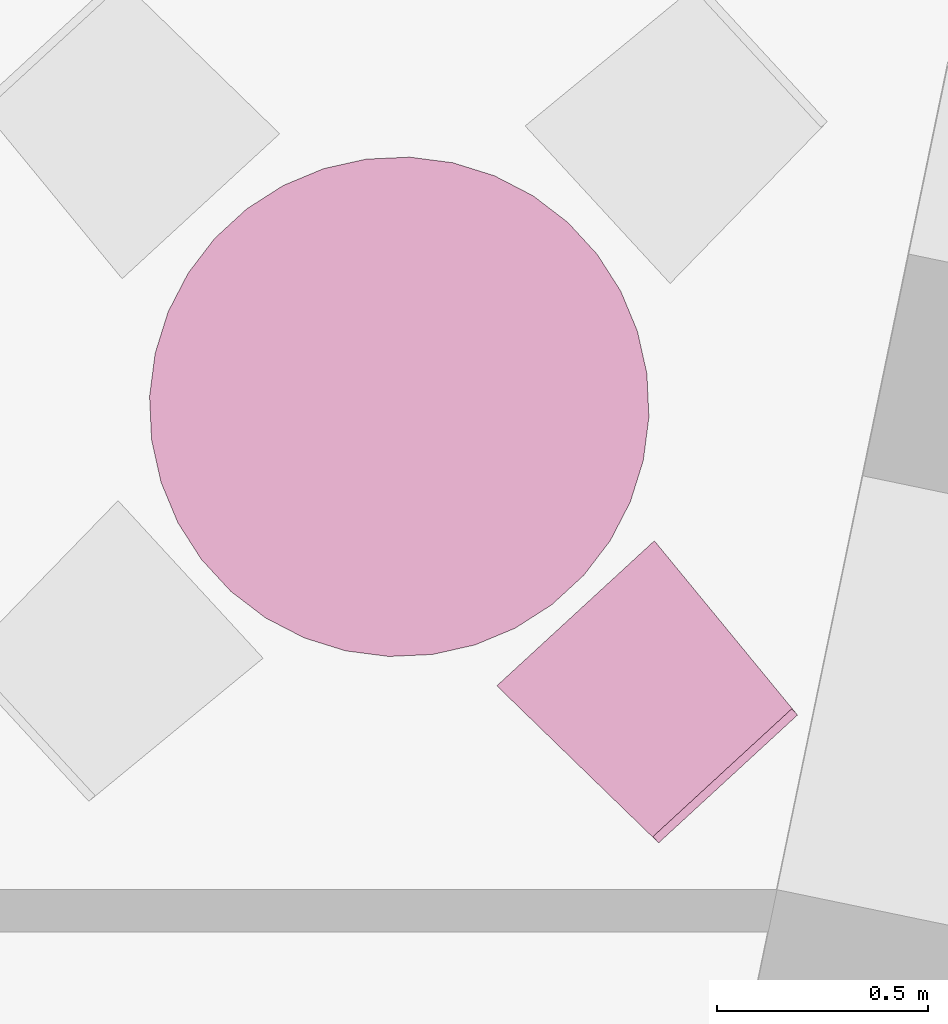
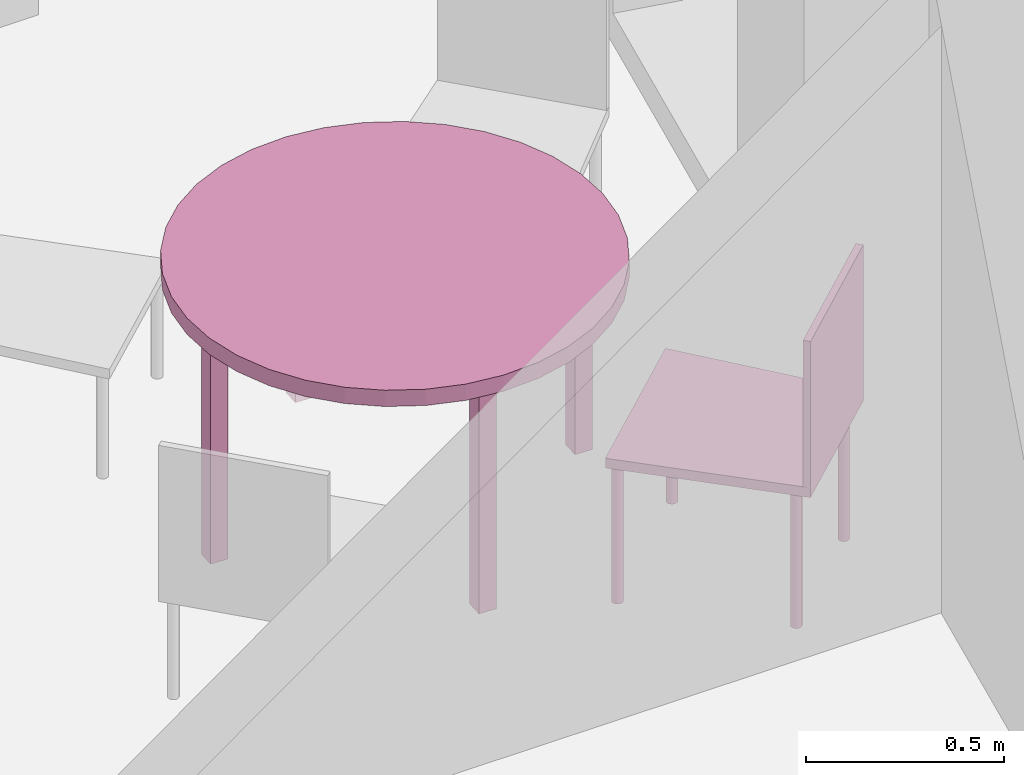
"""IFC4 building model written with IfcOpenShell, lengths in metres."""

from ifc_helpers import new_model, entity, si_unit, converted_unit, derived_unit, frame, origin, place, context, subcontext, project, spatial, faceted_brep, element, save


model = new_model("IFC4")

# Units and contexts
model_context = context("Model", 3, precision=1e-05, world=origin())
body_context = subcontext(model_context, "Body", "Model", "MODEL_VIEW")
ifc_project = project(units=[si_unit("LENGTHUNIT", "METRE"), si_unit("AREAUNIT", "SQUARE_METRE"), si_unit("VOLUMEUNIT", "CUBIC_METRE"), si_unit("MASSUNIT", "GRAM", prefix="KILO"), converted_unit("PLANEANGLEUNIT", "DEGREE", entity("IfcPlaneAngleMeasure", 0.0174532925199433), si_unit("PLANEANGLEUNIT", "RADIAN"), dimensions=[0, 0, 0, 0, 0, 0, 0]), derived_unit("THERMALTRANSMITTANCEUNIT", [(si_unit("POWERUNIT", "WATT"), 1), (si_unit("THERMODYNAMICTEMPERATUREUNIT", "KELVIN"), -1), (si_unit("LENGTHUNIT", "METRE"), -2)]), derived_unit("VOLUMETRICFLOWRATEUNIT", [(si_unit("LENGTHUNIT", "METRE"), 3), (converted_unit("TIMEUNIT", "hour", entity("IfcTimeMeasure", 3600.0), si_unit("TIMEUNIT", "SECOND"), dimensions=[0, 0, 1, 0, 0, 0, 0]), -1), (si_unit("LENGTHUNIT", "METRE"), -1)])], contexts=[model_context])

# Building, storeys
building_placement = place(None, origin())
building = spatial("IfcBuilding", under=ifc_project, at=building_placement, Name="HABITATGE PLURIFAMILIAR", CompositionType="ELEMENT")
storey_1_placement = place(building_placement, frame((0.0, 0.0, 9.26)))
storey_1 = spatial("IfcBuildingStorey", under=building, at=storey_1_placement, Name="PLANTA SEGONA", CompositionType="ELEMENT", Elevation=9.26)
storey_2_placement = place(storey_1_placement, frame((0.0, 0.0, 6.25)))
storey_2 = spatial("IfcBuildingStorey", under=storey_1, at=storey_2_placement, Name="NOU", CompositionType="PARTIAL")

# Furniture
furniture_1_placement = place(storey_2_placement, frame((424.548752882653, 24.8565950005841, -6.3499999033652)))
element("IfcFurniture", 1, at=furniture_1_placement, inside=storey_2, Name="Taula D120_P2", context=body_context, shape_type="Brep", body=[
    faceted_brep([(0.566234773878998, 0.0, 0.7), (0.669181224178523, 0.00472505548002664, 0.7), (0.769743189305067, 0.0272547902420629, 0.7), (0.864865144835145, 0.066904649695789, 0.7), (0.95165685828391, 0.122469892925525, 0.7), (1.02748120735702, 0.192262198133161, 0.7), (1.09003430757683, 0.274160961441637, 0.7), (1.13741551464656, 0.365677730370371, 0.7), (1.16818517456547, 0.46403181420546, 0.7), (1.18140836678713, 0.566234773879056, 0.7), (1.17668331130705, 0.669181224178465, 0.7), (1.15415357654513, 0.769743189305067, 0.7), (1.1145037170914, 0.864865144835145, 0.7), (1.05893847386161, 0.95165685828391, 0.7), (0.98914616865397, 1.02748120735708, 0.7), (0.907247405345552, 1.09003430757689, 0.7), (0.815730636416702, 1.13741551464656, 0.7), (0.717376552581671, 1.16818517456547, 0.7), (0.615173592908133, 1.18140836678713, 0.7), (0.512227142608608, 1.1766833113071, 0.7), (0.411665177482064, 1.15415357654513, 0.7), (0.316543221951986, 1.1145037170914, 0.7), (0.229751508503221, 1.05893847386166, 0.7), (0.15392715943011, 0.989146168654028, 0.7), (0.0913740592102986, 0.907247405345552, 0.7), (0.0439928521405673, 0.81573063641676, 0.7), (0.0132231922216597, 0.717376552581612, 0.7), (0.0, 0.615173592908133, 0.7), (0.00472505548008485, 0.512227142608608, 0.7), (0.0272547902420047, 0.411665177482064, 0.7), (0.0669046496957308, 0.316543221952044, 0.7), (0.122469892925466, 0.229751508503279, 0.7), (0.192262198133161, 0.15392715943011, 0.7), (0.274160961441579, 0.0913740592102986, 0.7), (0.365677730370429, 0.0439928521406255, 0.7), (0.46403181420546, 0.0132231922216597, 0.7), (0.566234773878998, 0.0, 0.75), (0.46403181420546, 0.0132231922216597, 0.75), (0.365677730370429, 0.0439928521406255, 0.75), (0.274160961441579, 0.0913740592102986, 0.75), (0.192262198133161, 0.15392715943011, 0.75), (0.122469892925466, 0.229751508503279, 0.75), (0.0669046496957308, 0.316543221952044, 0.75), (0.0272547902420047, 0.411665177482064, 0.75), (0.00472505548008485, 0.512227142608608, 0.75), (0.0, 0.615173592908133, 0.75), (0.0132231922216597, 0.717376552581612, 0.75), (0.0439928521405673, 0.81573063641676, 0.75), (0.0913740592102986, 0.907247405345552, 0.75), (0.15392715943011, 0.989146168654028, 0.75), (0.229751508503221, 1.05893847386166, 0.75), (0.316543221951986, 1.1145037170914, 0.75), (0.411665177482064, 1.15415357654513, 0.75), (0.512227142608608, 1.1766833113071, 0.75), (0.615173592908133, 1.18140836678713, 0.75), (0.717376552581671, 1.16818517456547, 0.75), (0.815730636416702, 1.13741551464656, 0.75), (0.907247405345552, 1.09003430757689, 0.75), (0.98914616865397, 1.02748120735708, 0.75), (1.05893847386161, 0.95165685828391, 0.75), (1.1145037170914, 0.864865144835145, 0.75), (1.15415357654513, 0.769743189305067, 0.75), (1.17668331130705, 0.669181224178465, 0.75), (1.18140836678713, 0.566234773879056, 0.75), (1.16818517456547, 0.46403181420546, 0.75), (1.13741551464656, 0.365677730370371, 0.75), (1.09003430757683, 0.274160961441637, 0.75), (1.02748120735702, 0.192262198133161, 0.75), (0.95165685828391, 0.122469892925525, 0.75), (0.864865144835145, 0.066904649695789, 0.75), (0.769743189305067, 0.0272547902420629, 0.75), (0.669181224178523, 0.00472505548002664, 0.75)], [[[0, 1, 2, 3, 4, 5, 6, 7, 8, 9, 10, 11, 12, 13, 14, 15, 16, 17, 18, 19, 20, 21, 22, 23, 24, 25, 26, 27, 28, 29, 30, 31, 32, 33, 34, 35]], [[36, 37, 38, 39, 40, 41, 42, 43, 44, 45, 46, 47, 48, 49, 50, 51, 52, 53, 54, 55, 56, 57, 58, 59, 60, 61, 62, 63, 64, 65, 66, 67, 68, 69, 70, 71]], [[1, 0, 36, 71]], [[2, 1, 71, 70]], [[3, 2, 70, 69]], [[4, 3, 69, 68]], [[5, 4, 68, 67]], [[6, 5, 67, 66]], [[7, 6, 66, 65]], [[8, 7, 65, 64]], [[9, 8, 64, 63]], [[10, 9, 63, 62]], [[11, 10, 62, 61]], [[12, 11, 61, 60]], [[13, 12, 60, 59]], [[14, 13, 59, 58]], [[15, 14, 58, 57]], [[16, 15, 57, 56]], [[17, 16, 56, 55]], [[18, 17, 55, 54]], [[19, 18, 54, 53]], [[20, 19, 53, 52]], [[21, 20, 52, 51]], [[22, 21, 51, 50]], [[23, 22, 50, 49]], [[24, 23, 49, 48]], [[25, 24, 48, 47]], [[26, 25, 47, 46]], [[27, 26, 46, 45]], [[28, 27, 45, 44]], [[29, 28, 44, 43]], [[30, 29, 43, 42]], [[31, 30, 42, 41]], [[32, 31, 41, 40]], [[33, 32, 40, 39]], [[34, 33, 39, 38]], [[35, 34, 38, 37]], [[0, 35, 37, 36]]], orient=[[False], [False], [False], [False], [False], [False], [False], [False], [False], [False], [False], [False], [False], [False], [False], [False], [False], [False], [False], [False], [False], [False], [False], [False], [False], [False], [False], [False], [False], [False], [False], [False], [False], [False], [False], [False], [False], [False]]),
    faceted_brep([(1.13402659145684, 0.582336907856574, 0.0), (1.08406943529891, 0.584406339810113, 0.0), (1.08200000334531, 0.534449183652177, 0.0), (1.1319571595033, 0.532379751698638, 0.0), (1.08406943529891, 0.584406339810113, 0.7), (1.13402659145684, 0.582336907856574, 0.7), (1.1319571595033, 0.532379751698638, 0.7), (1.08200000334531, 0.534449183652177, 0.7)], [[[0, 1, 2, 3]], [[4, 5, 6, 7]], [[1, 0, 5, 4]], [[2, 1, 4, 7]], [[3, 2, 7, 6]], [[0, 3, 6, 5]]], orient=[[False], [False], [False], [False], [False], [False]]),
    faceted_brep([(0.638184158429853, 1.13286481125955, 0.0), (0.588227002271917, 1.13493424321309, 0.0), (0.586157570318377, 1.08497708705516, 0.0), (0.636114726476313, 1.08290765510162, 0.0), (0.588227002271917, 1.13493424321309, 0.7), (0.638184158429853, 1.13286481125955, 0.7), (0.636114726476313, 1.08290765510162, 0.7), (0.586157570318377, 1.08497708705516, 0.7)], [[[0, 1, 2, 3]], [[4, 5, 6, 7]], [[1, 0, 5, 4]], [[2, 1, 4, 7]], [[3, 2, 7, 6]], [[0, 3, 6, 5]]], orient=[[False], [False], [False], [False], [False], [False]]),
    faceted_brep([(0.574688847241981, 0.0976411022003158, 0.0), (0.524731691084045, 0.0997105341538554, 0.0), (0.522662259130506, 0.0497533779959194, 0.0), (0.572619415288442, 0.0476839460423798, 0.0), (0.524731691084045, 0.0997105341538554, 0.7), (0.574688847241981, 0.0976411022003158, 0.7), (0.572619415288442, 0.0476839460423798, 0.7), (0.522662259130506, 0.0497533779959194, 0.7)], [[[0, 1, 2, 3]], [[4, 5, 6, 7]], [[1, 0, 5, 4]], [[2, 1, 4, 7]], [[3, 2, 7, 6]], [[0, 3, 6, 5]]], orient=[[False], [False], [False], [False], [False], [False]]),
    faceted_brep([(0.098150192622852, 0.625247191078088, 0.0), (0.0481930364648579, 0.627316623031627, 0.0), (0.0461236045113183, 0.577359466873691, 0.0), (0.0960807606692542, 0.575290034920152, 0.0), (0.0481930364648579, 0.627316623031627, 0.7), (0.098150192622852, 0.625247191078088, 0.7), (0.0960807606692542, 0.575290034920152, 0.7), (0.0461236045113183, 0.577359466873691, 0.7)], [[[0, 1, 2, 3]], [[4, 5, 6, 7]], [[1, 0, 5, 4]], [[2, 1, 4, 7]], [[3, 2, 7, 6]], [[0, 3, 6, 5]]], orient=[[False], [False], [False], [False], [False], [False]]),
])
furniture_2_placement = place(storey_2_placement, frame((425.370389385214, 24.4156080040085, -6.3514820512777)))
element("IfcFurniture", 2, at=furniture_2_placement, inside=storey_2, Name="Cadira confident_P2", context=body_context, shape_type="Brep", body=[
    faceted_brep([(0.360858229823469, 0.669598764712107, 0.0), (0.362781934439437, 0.667843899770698, 0.0), (0.364981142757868, 0.666449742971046, 0.0), (0.367389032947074, 0.665458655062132, 0.0), (0.369932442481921, 0.664900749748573, 0.0), (0.372534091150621, 0.664792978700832, 0.0), (0.375114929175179, 0.665138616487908, 0.0), (0.377596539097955, 0.665927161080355, 0.0), (0.379903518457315, 0.667134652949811, 0.0), (0.38196577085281, 0.66872440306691, 0.0), (0.383720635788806, 0.670648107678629, 0.0), (0.385114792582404, 0.672847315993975, 0.0), (0.3861058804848, 0.675255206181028, 0.0), (0.386663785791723, 0.677798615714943, 0.0), (0.386771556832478, 0.68040026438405, 0.0), (0.386425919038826, 0.682981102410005, 0.0), (0.385637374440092, 0.6854627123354, 0.0), (0.384429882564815, 0.68776969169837, 0.0), (0.382840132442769, 0.689831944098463, 0.0), (0.380916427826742, 0.691586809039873, 0.0), (0.378717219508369, 0.692980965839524, 0.0), (0.376309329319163, 0.693972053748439, 0.0), (0.373765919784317, 0.694529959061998, 0.0), (0.371164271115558, 0.694637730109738, 0.0), (0.368583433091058, 0.694292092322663, 0.0), (0.366101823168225, 0.693503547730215, 0.0), (0.363794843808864, 0.692296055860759, 0.0), (0.361732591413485, 0.690706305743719, 0.0), (0.359977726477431, 0.688782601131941, 0.0), (0.358583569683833, 0.686583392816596, 0.0), (0.357592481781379, 0.684175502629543, 0.0), (0.357034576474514, 0.68163209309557, 0.0), (0.356926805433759, 0.67903044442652, 0.0), (0.357272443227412, 0.676449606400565, 0.0), (0.358060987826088, 0.673967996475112, 0.0), (0.359268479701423, 0.671661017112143, 0.0), (0.360858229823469, 0.669598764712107, 0.448281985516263), (0.359268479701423, 0.671661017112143, 0.448281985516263), (0.358060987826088, 0.673967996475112, 0.448281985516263), (0.357272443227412, 0.676449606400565, 0.448281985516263), (0.356926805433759, 0.67903044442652, 0.448281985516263), (0.357034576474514, 0.68163209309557, 0.448281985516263), (0.357592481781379, 0.684175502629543, 0.448281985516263), (0.358583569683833, 0.686583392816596, 0.448281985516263), (0.359977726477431, 0.688782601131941, 0.448281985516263), (0.361732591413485, 0.690706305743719, 0.448281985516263), (0.363794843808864, 0.692296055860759, 0.448281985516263), (0.366101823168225, 0.693503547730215, 0.448281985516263), (0.368583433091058, 0.694292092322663, 0.448281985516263), (0.371164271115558, 0.694637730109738, 0.448281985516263), (0.373765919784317, 0.694529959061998, 0.448281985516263), (0.376309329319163, 0.693972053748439, 0.448281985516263), (0.378717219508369, 0.692980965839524, 0.448281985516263), (0.380916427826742, 0.691586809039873, 0.448281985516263), (0.382840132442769, 0.689831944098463, 0.448281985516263), (0.384429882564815, 0.68776969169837, 0.448281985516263), (0.385637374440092, 0.6854627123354, 0.448281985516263), (0.386425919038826, 0.682981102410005, 0.448281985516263), (0.386771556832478, 0.68040026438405, 0.448281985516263), (0.386663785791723, 0.677798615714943, 0.448281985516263), (0.3861058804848, 0.675255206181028, 0.448281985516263), (0.385114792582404, 0.672847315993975, 0.448281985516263), (0.383720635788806, 0.670648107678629, 0.448281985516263), (0.38196577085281, 0.66872440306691, 0.448281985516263), (0.379903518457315, 0.667134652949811, 0.448281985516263), (0.377596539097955, 0.665927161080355, 0.448281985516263), (0.375114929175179, 0.665138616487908, 0.448281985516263), (0.372534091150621, 0.664792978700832, 0.448281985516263), (0.369932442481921, 0.664900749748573, 0.448281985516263), (0.367389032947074, 0.665458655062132, 0.448281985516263), (0.364981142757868, 0.666449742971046, 0.448281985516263), (0.362781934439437, 0.667843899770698, 0.448281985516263)], [[[0, 1, 2, 3, 4, 5, 6, 7, 8, 9, 10, 11, 12, 13, 14, 15, 16, 17, 18, 19, 20, 21, 22, 23, 24, 25, 26, 27, 28, 29, 30, 31, 32, 33, 34, 35]], [[36, 37, 38, 39, 40, 41, 42, 43, 44, 45, 46, 47, 48, 49, 50, 51, 52, 53, 54, 55, 56, 57, 58, 59, 60, 61, 62, 63, 64, 65, 66, 67, 68, 69, 70, 71]], [[1, 0, 36, 71]], [[2, 1, 71, 70]], [[3, 2, 70, 69]], [[4, 3, 69, 68]], [[5, 4, 68, 67]], [[6, 5, 67, 66]], [[7, 6, 66, 65]], [[8, 7, 65, 64]], [[9, 8, 64, 63]], [[10, 9, 63, 62]], [[11, 10, 62, 61]], [[12, 11, 61, 60]], [[13, 12, 60, 59]], [[14, 13, 59, 58]], [[15, 14, 58, 57]], [[16, 15, 57, 56]], [[17, 16, 56, 55]], [[18, 17, 55, 54]], [[19, 18, 54, 53]], [[20, 19, 53, 52]], [[21, 20, 52, 51]], [[22, 21, 51, 50]], [[23, 22, 50, 49]], [[24, 23, 49, 48]], [[25, 24, 48, 47]], [[26, 25, 47, 46]], [[27, 26, 46, 45]], [[28, 27, 45, 44]], [[29, 28, 44, 43]], [[30, 29, 43, 42]], [[31, 30, 42, 41]], [[32, 31, 41, 40]], [[33, 32, 40, 39]], [[34, 33, 39, 38]], [[35, 34, 38, 37]], [[0, 35, 37, 36]]], orient=[[False], [False], [False], [False], [False], [False], [False], [False], [False], [False], [False], [False], [False], [False], [False], [False], [False], [False], [False], [False], [False], [False], [False], [False], [False], [False], [False], [False], [False], [False], [False], [False], [False], [False], [False], [False], [False], [False]]),
    faceted_brep([(0.653681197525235, 0.310657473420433, 0.0), (0.655604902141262, 0.308902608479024, 0.0), (0.657804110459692, 0.307508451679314, 0.0), (0.66021200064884, 0.306517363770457, 0.0), (0.662755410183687, 0.30595945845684, 0.0), (0.665357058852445, 0.305851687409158, 0.0), (0.667937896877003, 0.306197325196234, 0.0), (0.670419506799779, 0.306985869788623, 0.0), (0.672726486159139, 0.308193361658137, 0.0), (0.674788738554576, 0.309783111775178, 0.0), (0.676543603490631, 0.311706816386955, 0.0), (0.677937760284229, 0.313906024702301, 0.0), (0.678928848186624, 0.316313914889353, 0.0), (0.679486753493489, 0.318857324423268, 0.0), (0.679594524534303, 0.321458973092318, 0.0), (0.67924888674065, 0.324039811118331, 0.0), (0.678460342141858, 0.326521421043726, 0.0), (0.677252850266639, 0.328828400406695, 0.0), (0.675663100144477, 0.330890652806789, 0.0), (0.673739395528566, 0.332645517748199, 0.0), (0.671540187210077, 0.33403967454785, 0.0), (0.669132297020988, 0.335030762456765, 0.0), (0.666588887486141, 0.335588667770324, 0.0), (0.663987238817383, 0.335696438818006, 0.0), (0.661406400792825, 0.335350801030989, 0.0), (0.658924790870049, 0.334562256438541, 0.0), (0.656617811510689, 0.333354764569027, 0.0), (0.654555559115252, 0.331765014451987, 0.0), (0.652800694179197, 0.329841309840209, 0.0), (0.651406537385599, 0.327642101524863, 0.0), (0.650415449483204, 0.325234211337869, 0.0), (0.649857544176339, 0.322690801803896, 0.0), (0.649749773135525, 0.320089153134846, 0.0), (0.650095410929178, 0.317508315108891, 0.0), (0.650883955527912, 0.315026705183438, 0.0), (0.652091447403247, 0.312719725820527, 0.0), (0.653681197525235, 0.310657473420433, 0.448281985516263), (0.652091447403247, 0.312719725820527, 0.448281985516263), (0.650883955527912, 0.315026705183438, 0.448281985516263), (0.650095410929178, 0.317508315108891, 0.448281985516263), (0.649749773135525, 0.320089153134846, 0.448281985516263), (0.649857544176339, 0.322690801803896, 0.448281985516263), (0.650415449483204, 0.325234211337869, 0.448281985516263), (0.651406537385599, 0.327642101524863, 0.448281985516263), (0.652800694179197, 0.329841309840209, 0.448281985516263), (0.654555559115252, 0.331765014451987, 0.448281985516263), (0.656617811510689, 0.333354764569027, 0.448281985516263), (0.658924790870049, 0.334562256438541, 0.448281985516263), (0.661406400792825, 0.335350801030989, 0.448281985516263), (0.663987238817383, 0.335696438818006, 0.448281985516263), (0.666588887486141, 0.335588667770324, 0.448281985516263), (0.669132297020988, 0.335030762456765, 0.448281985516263), (0.671540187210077, 0.33403967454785, 0.448281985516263), (0.673739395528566, 0.332645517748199, 0.448281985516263), (0.675663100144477, 0.330890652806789, 0.448281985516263), (0.677252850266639, 0.328828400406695, 0.448281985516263), (0.678460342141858, 0.326521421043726, 0.448281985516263), (0.67924888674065, 0.324039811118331, 0.448281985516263), (0.679594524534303, 0.321458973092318, 0.448281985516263), (0.679486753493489, 0.318857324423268, 0.448281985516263), (0.678928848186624, 0.316313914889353, 0.448281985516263), (0.677937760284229, 0.313906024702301, 0.448281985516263), (0.676543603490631, 0.311706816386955, 0.448281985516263), (0.674788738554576, 0.309783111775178, 0.448281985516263), (0.672726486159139, 0.308193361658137, 0.448281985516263), (0.670419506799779, 0.306985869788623, 0.448281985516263), (0.667937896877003, 0.306197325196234, 0.448281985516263), (0.665357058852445, 0.305851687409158, 0.448281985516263), (0.662755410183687, 0.30595945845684, 0.448281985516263), (0.66021200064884, 0.306517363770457, 0.448281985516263), (0.657804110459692, 0.307508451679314, 0.448281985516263), (0.655604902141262, 0.308902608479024, 0.448281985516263)], [[[0, 1, 2, 3, 4, 5, 6, 7, 8, 9, 10, 11, 12, 13, 14, 15, 16, 17, 18, 19, 20, 21, 22, 23, 24, 25, 26, 27, 28, 29, 30, 31, 32, 33, 34, 35]], [[36, 37, 38, 39, 40, 41, 42, 43, 44, 45, 46, 47, 48, 49, 50, 51, 52, 53, 54, 55, 56, 57, 58, 59, 60, 61, 62, 63, 64, 65, 66, 67, 68, 69, 70, 71]], [[1, 0, 36, 71]], [[2, 1, 71, 70]], [[3, 2, 70, 69]], [[4, 3, 69, 68]], [[5, 4, 68, 67]], [[6, 5, 67, 66]], [[7, 6, 66, 65]], [[8, 7, 65, 64]], [[9, 8, 64, 63]], [[10, 9, 63, 62]], [[11, 10, 62, 61]], [[12, 11, 61, 60]], [[13, 12, 60, 59]], [[14, 13, 59, 58]], [[15, 14, 58, 57]], [[16, 15, 57, 56]], [[17, 16, 56, 55]], [[18, 17, 55, 54]], [[19, 18, 54, 53]], [[20, 19, 53, 52]], [[21, 20, 52, 51]], [[22, 21, 51, 50]], [[23, 22, 50, 49]], [[24, 23, 49, 48]], [[25, 24, 48, 47]], [[26, 25, 47, 46]], [[27, 26, 46, 45]], [[28, 27, 45, 44]], [[29, 28, 44, 43]], [[30, 29, 43, 42]], [[31, 30, 42, 41]], [[32, 31, 41, 40]], [[33, 32, 40, 39]], [[34, 33, 39, 38]], [[35, 34, 38, 37]], [[0, 35, 37, 36]]], orient=[[False], [False], [False], [False], [False], [False], [False], [False], [False], [False], [False], [False], [False], [False], [False], [False], [False], [False], [False], [False], [False], [False], [False], [False], [False], [False], [False], [False], [False], [False], [False], [False], [False], [False], [False], [False], [False], [False]]),
    faceted_brep([(0.0224053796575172, 0.358070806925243, 0.0), (0.0243290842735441, 0.356315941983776, 0.0), (0.0265282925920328, 0.354921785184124, 0.0), (0.0289361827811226, 0.353930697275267, 0.0), (0.0314795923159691, 0.35337279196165, 0.0), (0.0340812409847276, 0.353265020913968, 0.0), (0.0366620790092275, 0.353610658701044, 0.0), (0.0391436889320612, 0.354399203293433, 0.0), (0.0414506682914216, 0.355606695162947, 0.0), (0.0435129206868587, 0.357196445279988, 0.0), (0.0452677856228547, 0.359120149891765, 0.0), (0.0466619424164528, 0.361319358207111, 0.0), (0.0476530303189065, 0.363727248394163, 0.0), (0.0482109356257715, 0.366270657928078, 0.0), (0.0483187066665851, 0.368872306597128, 0.0), (0.0479730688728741, 0.371453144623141, 0.0), (0.0471845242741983, 0.373934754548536, 0.0), (0.0459770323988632, 0.376241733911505, 0.0), (0.0443872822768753, 0.378303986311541, 0.0), (0.0424635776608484, 0.380058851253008, 0.0), (0.0402643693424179, 0.38145300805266, 0.0), (0.0378564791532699, 0.382444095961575, 0.0), (0.0353130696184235, 0.383002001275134, 0.0), (0.0327114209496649, 0.383109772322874, 0.0), (0.0301305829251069, 0.382764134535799, 0.0), (0.0276489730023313, 0.381975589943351, 0.0), (0.0253419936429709, 0.380768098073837, 0.0), (0.0232797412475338, 0.379178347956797, 0.0), (0.0215248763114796, 0.377254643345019, 0.0), (0.0201307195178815, 0.375055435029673, 0.0), (0.019139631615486, 0.372647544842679, 0.0), (0.0185817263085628, 0.370104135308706, 0.0), (0.0184739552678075, 0.367502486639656, 0.0), (0.0188195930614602, 0.364921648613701, 0.0), (0.0196081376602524, 0.362440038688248, 0.0), (0.0208156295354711, 0.360133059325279, 0.0), (0.0224053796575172, 0.358070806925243, 0.448281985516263), (0.0208156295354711, 0.360133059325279, 0.448281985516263), (0.0196081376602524, 0.362440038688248, 0.448281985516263), (0.0188195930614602, 0.364921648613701, 0.448281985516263), (0.0184739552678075, 0.367502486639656, 0.448281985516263), (0.0185817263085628, 0.370104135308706, 0.448281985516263), (0.019139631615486, 0.372647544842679, 0.448281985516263), (0.0201307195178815, 0.375055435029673, 0.448281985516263), (0.0215248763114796, 0.377254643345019, 0.448281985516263), (0.0232797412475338, 0.379178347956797, 0.448281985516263), (0.0253419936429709, 0.380768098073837, 0.448281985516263), (0.0276489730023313, 0.381975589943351, 0.448281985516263), (0.0301305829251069, 0.382764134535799, 0.448281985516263), (0.0327114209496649, 0.383109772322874, 0.448281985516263), (0.0353130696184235, 0.383002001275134, 0.448281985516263), (0.0378564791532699, 0.382444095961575, 0.448281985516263), (0.0402643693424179, 0.38145300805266, 0.448281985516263), (0.0424635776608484, 0.380058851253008, 0.448281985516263), (0.0443872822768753, 0.378303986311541, 0.448281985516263), (0.0459770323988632, 0.376241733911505, 0.448281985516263), (0.0471845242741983, 0.373934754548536, 0.448281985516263), (0.0479730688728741, 0.371453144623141, 0.448281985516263), (0.0483187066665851, 0.368872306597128, 0.448281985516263), (0.0482109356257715, 0.366270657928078, 0.448281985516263), (0.0476530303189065, 0.363727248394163, 0.448281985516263), (0.0466619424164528, 0.361319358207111, 0.448281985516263), (0.0452677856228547, 0.359120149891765, 0.448281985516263), (0.0435129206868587, 0.357196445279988, 0.448281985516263), (0.0414506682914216, 0.355606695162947, 0.448281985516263), (0.0391436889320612, 0.354399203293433, 0.448281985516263), (0.0366620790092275, 0.353610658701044, 0.448281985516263), (0.0340812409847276, 0.353265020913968, 0.448281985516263), (0.0314795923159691, 0.35337279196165, 0.448281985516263), (0.0289361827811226, 0.353930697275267, 0.448281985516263), (0.0265282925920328, 0.354921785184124, 0.448281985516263), (0.0243290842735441, 0.356315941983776, 0.448281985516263)], [[[0, 1, 2, 3, 4, 5, 6, 7, 8, 9, 10, 11, 12, 13, 14, 15, 16, 17, 18, 19, 20, 21, 22, 23, 24, 25, 26, 27, 28, 29, 30, 31, 32, 33, 34, 35]], [[36, 37, 38, 39, 40, 41, 42, 43, 44, 45, 46, 47, 48, 49, 50, 51, 52, 53, 54, 55, 56, 57, 58, 59, 60, 61, 62, 63, 64, 65, 66, 67, 68, 69, 70, 71]], [[1, 0, 36, 71]], [[2, 1, 71, 70]], [[3, 2, 70, 69]], [[4, 3, 69, 68]], [[5, 4, 68, 67]], [[6, 5, 67, 66]], [[7, 6, 66, 65]], [[8, 7, 65, 64]], [[9, 8, 64, 63]], [[10, 9, 63, 62]], [[11, 10, 62, 61]], [[12, 11, 61, 60]], [[13, 12, 60, 59]], [[14, 13, 59, 58]], [[15, 14, 58, 57]], [[16, 15, 57, 56]], [[17, 16, 56, 55]], [[18, 17, 55, 54]], [[19, 18, 54, 53]], [[20, 19, 53, 52]], [[21, 20, 52, 51]], [[22, 21, 51, 50]], [[23, 22, 50, 49]], [[24, 23, 49, 48]], [[25, 24, 48, 47]], [[26, 25, 47, 46]], [[27, 26, 46, 45]], [[28, 27, 45, 44]], [[29, 28, 44, 43]], [[30, 29, 43, 42]], [[31, 30, 42, 41]], [[32, 31, 41, 40]], [[33, 32, 40, 39]], [[34, 33, 39, 38]], [[35, 34, 38, 37]], [[0, 35, 37, 36]]], orient=[[False], [False], [False], [False], [False], [False], [False], [False], [False], [False], [False], [False], [False], [False], [False], [False], [False], [False], [False], [False], [False], [False], [False], [False], [False], [False], [False], [False], [False], [False], [False], [False], [False], [False], [False], [False], [False], [False]]),
    faceted_brep([(0.359374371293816, 0.0397635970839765, 0.0), (0.361298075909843, 0.0380087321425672, 0.0), (0.363497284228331, 0.0366145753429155, 0.0), (0.365905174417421, 0.0356234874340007, 0.0), (0.368448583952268, 0.0350655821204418, 0.0), (0.371050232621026, 0.0349578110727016, 0.0), (0.373631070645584, 0.0353034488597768, 0.0), (0.37611268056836, 0.0360919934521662, 0.0), (0.37841965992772, 0.0372994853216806, 0.0), (0.380481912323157, 0.0388892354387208, 0.0), (0.382236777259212, 0.0408129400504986, 0.0), (0.38363093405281, 0.043012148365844, 0.0), (0.384622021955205, 0.0454200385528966, 0.0), (0.385179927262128, 0.0479634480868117, 0.0), (0.385287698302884, 0.0505650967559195, 0.0), (0.384942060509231, 0.0531459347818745, 0.0), (0.384153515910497, 0.0556275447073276, 0.0), (0.38294602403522, 0.0579345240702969, 0.0), (0.381356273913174, 0.0599967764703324, 0.0), (0.379432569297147, 0.0617516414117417, 0.0), (0.377233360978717, 0.0631457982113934, 0.0), (0.374825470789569, 0.0641368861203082, 0.0), (0.37228206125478, 0.0646947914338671, 0.0), (0.369680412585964, 0.0648025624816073, 0.0), (0.367099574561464, 0.0644569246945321, 0.0), (0.36461796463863, 0.0636683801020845, 0.0), (0.36231098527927, 0.0624608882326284, 0.0), (0.360248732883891, 0.0608711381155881, 0.0), (0.358493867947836, 0.0589474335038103, 0.0), (0.357099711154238, 0.0567482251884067, 0.0), (0.356108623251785, 0.0543403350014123, 0.0), (0.35555071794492, 0.0517969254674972, 0.0), (0.355442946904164, 0.0491952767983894, 0.0), (0.355788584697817, 0.0466144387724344, 0.0), (0.356577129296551, 0.0441328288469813, 0.0), (0.357784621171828, 0.0418258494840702, 0.0), (0.359374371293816, 0.0397635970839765, 0.448281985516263), (0.357784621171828, 0.0418258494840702, 0.448281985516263), (0.356577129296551, 0.0441328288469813, 0.448281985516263), (0.355788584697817, 0.0466144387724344, 0.448281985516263), (0.355442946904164, 0.0491952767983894, 0.448281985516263), (0.35555071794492, 0.0517969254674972, 0.448281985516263), (0.356108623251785, 0.0543403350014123, 0.448281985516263), (0.357099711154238, 0.0567482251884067, 0.448281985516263), (0.358493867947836, 0.0589474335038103, 0.448281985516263), (0.360248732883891, 0.0608711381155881, 0.448281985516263), (0.36231098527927, 0.0624608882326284, 0.448281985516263), (0.36461796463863, 0.0636683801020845, 0.448281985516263), (0.367099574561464, 0.0644569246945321, 0.448281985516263), (0.369680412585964, 0.0648025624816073, 0.448281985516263), (0.37228206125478, 0.0646947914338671, 0.448281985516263), (0.374825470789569, 0.0641368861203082, 0.448281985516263), (0.377233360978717, 0.0631457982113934, 0.448281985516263), (0.379432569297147, 0.0617516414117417, 0.448281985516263), (0.381356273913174, 0.0599967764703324, 0.448281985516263), (0.38294602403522, 0.0579345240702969, 0.448281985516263), (0.384153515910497, 0.0556275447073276, 0.448281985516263), (0.384942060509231, 0.0531459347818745, 0.448281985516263), (0.385287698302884, 0.0505650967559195, 0.448281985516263), (0.385179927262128, 0.0479634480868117, 0.448281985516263), (0.384622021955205, 0.0454200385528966, 0.448281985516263), (0.38363093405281, 0.043012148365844, 0.448281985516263), (0.382236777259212, 0.0408129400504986, 0.448281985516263), (0.380481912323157, 0.0388892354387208, 0.448281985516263), (0.37841965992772, 0.0372994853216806, 0.448281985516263), (0.37611268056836, 0.0360919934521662, 0.448281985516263), (0.373631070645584, 0.0353034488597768, 0.448281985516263), (0.371050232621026, 0.0349578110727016, 0.448281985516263), (0.368448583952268, 0.0350655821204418, 0.448281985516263), (0.365905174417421, 0.0356234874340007, 0.448281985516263), (0.363497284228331, 0.0366145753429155, 0.448281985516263), (0.361298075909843, 0.0380087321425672, 0.448281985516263)], [[[0, 1, 2, 3, 4, 5, 6, 7, 8, 9, 10, 11, 12, 13, 14, 15, 16, 17, 18, 19, 20, 21, 22, 23, 24, 25, 26, 27, 28, 29, 30, 31, 32, 33, 34, 35]], [[36, 37, 38, 39, 40, 41, 42, 43, 44, 45, 46, 47, 48, 49, 50, 51, 52, 53, 54, 55, 56, 57, 58, 59, 60, 61, 62, 63, 64, 65, 66, 67, 68, 69, 70, 71]], [[1, 0, 36, 71]], [[2, 1, 71, 70]], [[3, 2, 70, 69]], [[4, 3, 69, 68]], [[5, 4, 68, 67]], [[6, 5, 67, 66]], [[7, 6, 66, 65]], [[8, 7, 65, 64]], [[9, 8, 64, 63]], [[10, 9, 63, 62]], [[11, 10, 62, 61]], [[12, 11, 61, 60]], [[13, 12, 60, 59]], [[14, 13, 59, 58]], [[15, 14, 58, 57]], [[16, 15, 57, 56]], [[17, 16, 56, 55]], [[18, 17, 55, 54]], [[19, 18, 54, 53]], [[20, 19, 53, 52]], [[21, 20, 52, 51]], [[22, 21, 51, 50]], [[23, 22, 50, 49]], [[24, 23, 49, 48]], [[25, 24, 48, 47]], [[26, 25, 47, 46]], [[27, 26, 46, 45]], [[28, 27, 45, 44]], [[29, 28, 44, 43]], [[30, 29, 43, 42]], [[31, 30, 42, 41]], [[32, 31, 41, 40]], [[33, 32, 40, 39]], [[34, 33, 39, 38]], [[35, 34, 38, 37]], [[0, 35, 37, 36]]], orient=[[False], [False], [False], [False], [False], [False], [False], [False], [False], [False], [False], [False], [False], [False], [False], [False], [False], [False], [False], [False], [False], [False], [False], [False], [False], [False], [False], [False], [False], [False], [False], [False], [False], [False], [False], [False], [False], [False]]),
    faceted_brep([(0.382773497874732, 0.0, 0.418281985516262), (0.711304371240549, 0.302395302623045, 0.418281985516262), (0.372676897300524, 0.714587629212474, 0.418281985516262), (0.0, 0.371558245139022, 0.418281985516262), (0.0, 0.371558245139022, 0.448281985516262), (0.372676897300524, 0.714587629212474, 0.448281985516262), (0.711304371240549, 0.302395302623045, 0.448281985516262), (0.382773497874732, 0.0, 0.448281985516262)], [[[0, 1, 2, 3]], [[4, 5, 6, 7]], [[3, 4, 7, 0]], [[2, 5, 4, 3]], [[1, 6, 5, 2]], [[0, 7, 6, 1]]], orient=[[False], [False], [False], [False], [False], [False]]),
    faceted_brep([(0.369228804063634, 0.0147153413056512, 0.448281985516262), (0.382773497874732, 0.0, 0.448281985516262), (0.711304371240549, 0.302395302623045, 0.448281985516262), (0.697759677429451, 0.317110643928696, 0.448281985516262), (0.697759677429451, 0.317110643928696, 0.898281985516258), (0.711304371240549, 0.302395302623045, 0.898281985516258), (0.382773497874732, 0.0, 0.898281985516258), (0.369228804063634, 0.0147153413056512, 0.898281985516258)], [[[0, 1, 2, 3]], [[4, 5, 6, 7]], [[3, 4, 7, 0]], [[2, 5, 4, 3]], [[1, 6, 5, 2]], [[0, 7, 6, 1]]], orient=[[False], [False], [False], [False], [False], [False]]),
])

save(model, "model.ifc")
